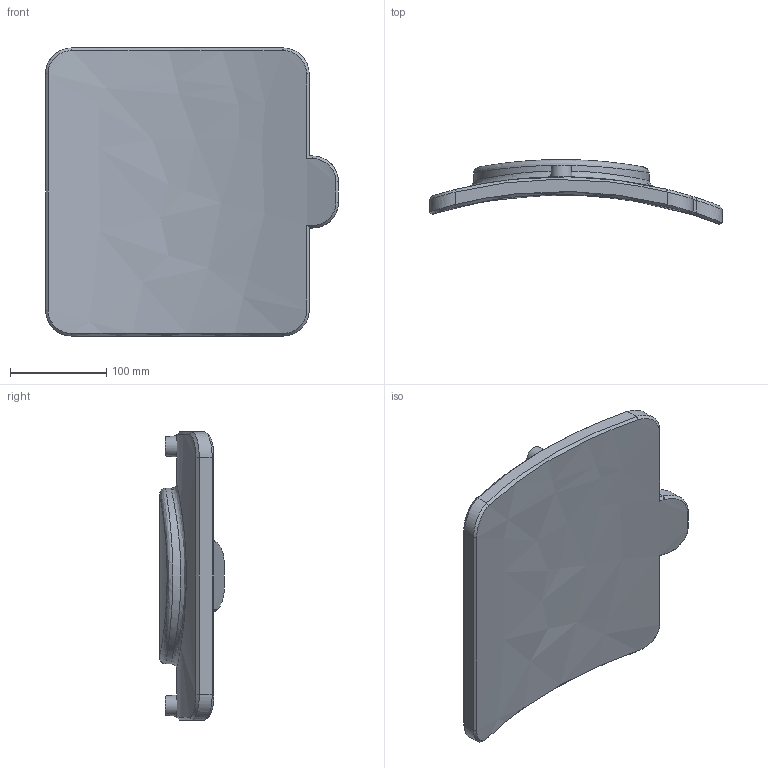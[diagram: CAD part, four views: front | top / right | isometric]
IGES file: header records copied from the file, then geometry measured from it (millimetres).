
Global section: file name: 495204900070; native system: Autodesk Inventor 2019; preprocessor: unknown; author: Kirill; date: 20230829.111655; units: millimetre
Bounding box: 305 x 67.44 x 300 mm (x, y, z)
Volume: 2002990.9 mm3; surface area: 199496.2 mm2
Topology: 1 solids, 1 shells, 72 faces, 171 edges, 108 vertices
Faces by surface type: bspline 72
